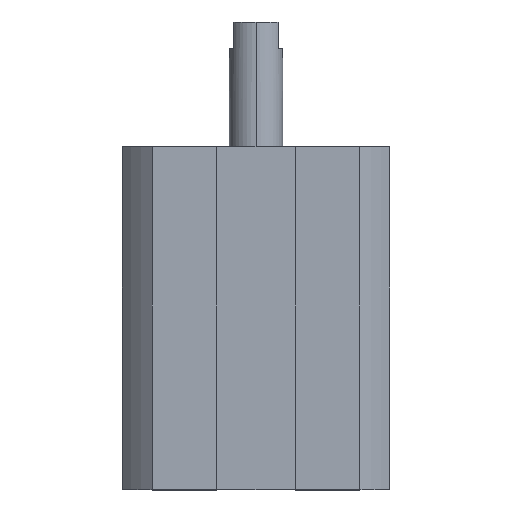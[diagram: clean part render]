
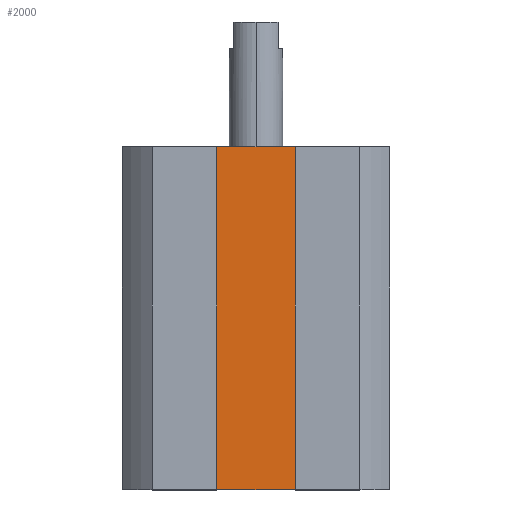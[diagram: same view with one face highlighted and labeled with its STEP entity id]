
A CAD part, top view. The second image highlights one B-rep face of the part: STEP entity #2000.
In plain terms, the highlighted planar face has unit normal (0, 0, 1).
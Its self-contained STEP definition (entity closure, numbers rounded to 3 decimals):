
#4 = VERTEX_POINT ( 'NONE', #368 ) ;
#36 = AXIS2_PLACEMENT_3D ( 'NONE', #2053, #1357, #1371 ) ;
#80 = LINE ( 'NONE', #1559, #788 ) ;
#114 = CARTESIAN_POINT ( 'NONE',  ( 4.4, -38.5, 10. ) ) ;
#335 = VECTOR ( 'NONE', #472, 1000. ) ;
#368 = CARTESIAN_POINT ( 'NONE',  ( -4.4, 0., 10. ) ) ;
#380 = LINE ( 'NONE', #1876, #335 ) ;
#448 = CARTESIAN_POINT ( 'NONE',  ( 4.4, 0., 10. ) ) ;
#472 = DIRECTION ( 'NONE',  ( 0., 1., 0. ) ) ;
#650 = FACE_OUTER_BOUND ( 'NONE', #2032, .T. ) ;
#717 = DIRECTION ( 'NONE',  ( 0., 1., 0. ) ) ;
#732 = ORIENTED_EDGE ( 'NONE', *, *, #2035, .F. ) ;
#788 = VECTOR ( 'NONE', #1902, 1000. ) ;
#793 = DIRECTION ( 'NONE',  ( 1., 0., 0. ) ) ;
#834 = PLANE ( 'NONE',  #36 ) ;
#844 = ORIENTED_EDGE ( 'NONE', *, *, #1548, .F. ) ;
#899 = VECTOR ( 'NONE', #793, 1000. ) ;
#1181 = CARTESIAN_POINT ( 'NONE',  ( 0., 0., 10. ) ) ;
#1227 = CARTESIAN_POINT ( 'NONE',  ( 4.4, -38.5, 10. ) ) ;
#1257 = CARTESIAN_POINT ( 'NONE',  ( -4.4, -38.5, 10. ) ) ;
#1334 = LINE ( 'NONE', #1227, #1560 ) ;
#1357 = DIRECTION ( 'NONE',  ( 0., 0., 1. ) ) ;
#1371 = DIRECTION ( 'NONE',  ( 1., 0., 0. ) ) ;
#1418 = ORIENTED_EDGE ( 'NONE', *, *, #1582, .T. ) ;
#1447 = VERTEX_POINT ( 'NONE', #1257 ) ;
#1548 = EDGE_CURVE ( 'NONE', #1447, #4, #380, .T. ) ;
#1559 = CARTESIAN_POINT ( 'NONE',  ( 0., -38.5, 10. ) ) ;
#1560 = VECTOR ( 'NONE', #717, 1000. ) ;
#1582 = EDGE_CURVE ( 'NONE', #1447, #1979, #80, .T. ) ;
#1699 = EDGE_CURVE ( 'NONE', #1979, #1973, #1334, .T. ) ;
#1761 = ORIENTED_EDGE ( 'NONE', *, *, #1699, .T. ) ;
#1876 = CARTESIAN_POINT ( 'NONE',  ( -4.4, -38.5, 10. ) ) ;
#1902 = DIRECTION ( 'NONE',  ( 1., 0., 0. ) ) ;
#1973 = VERTEX_POINT ( 'NONE', #448 ) ;
#1979 = VERTEX_POINT ( 'NONE', #114 ) ;
#2000 = ADVANCED_FACE ( 'NONE', ( #650 ), #834, .T. ) ;
#2032 = EDGE_LOOP ( 'NONE', ( #732, #844, #1418, #1761 ) ) ;
#2035 = EDGE_CURVE ( 'NONE', #4, #1973, #2172, .T. ) ;
#2053 = CARTESIAN_POINT ( 'NONE',  ( 0., -38.5, 10. ) ) ;
#2172 = LINE ( 'NONE', #1181, #899 ) ;
